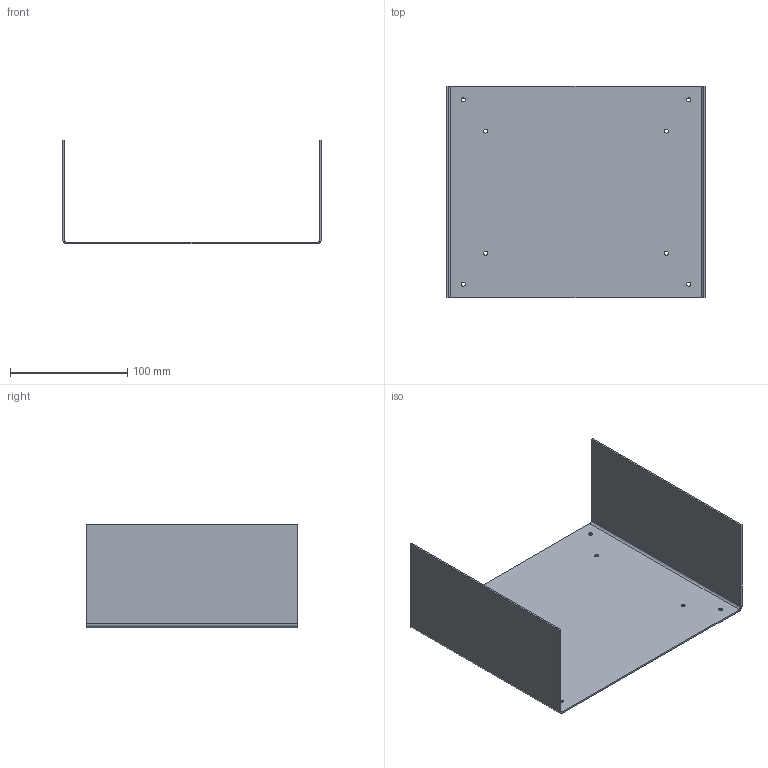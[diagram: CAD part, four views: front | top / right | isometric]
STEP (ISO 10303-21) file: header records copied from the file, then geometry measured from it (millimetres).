
FILE_DESCRIPTION(('Open CASCADE Model'),'2;1');
FILE_NAME('Open CASCADE Shape Model','2026-10-28T07:21:37',('Author'),( 'Open CASCADE'),'Open CASCADE STEP processor 7.8','Open CASCADE 7.8' ,'Unknown');
FILE_SCHEMA(('AUTOMOTIVE_DESIGN { 1 0 10303 214 1 1 1 1 }'));
Length unit declared in the file: millimetre
Products named in the file (1): Open CASCADE STEP translator 7.8 4
Bounding box: 220 x 180 x 88.5 mm (x, y, z)
Volume: 105633.7 mm3; surface area: 142688 mm2
Topology: 1 solids, 1 shells, 22 faces, 60 edges, 40 vertices
Faces by surface type: cylinder 12, plane 10
Full cylindrical faces by diameter (mm): 3.4 x8
Entity records: 1566 total; most frequent: CARTESIAN_POINT 315, DIRECTION 238, LINE 132, VECTOR 132, ORIENTED_EDGE 120, PCURVE 120, DEFINITIONAL_REPRESENTATION 120, EDGE_CURVE 60
